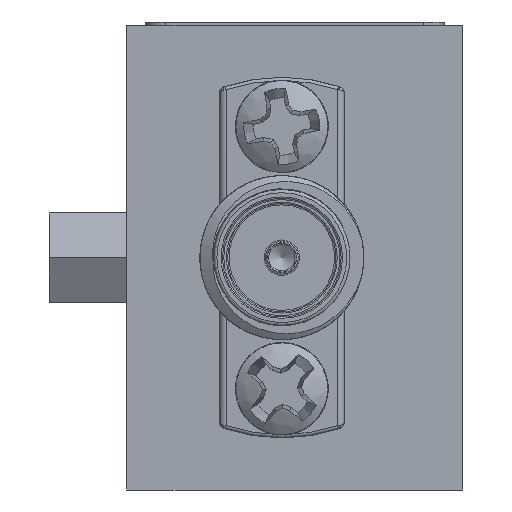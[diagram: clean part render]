
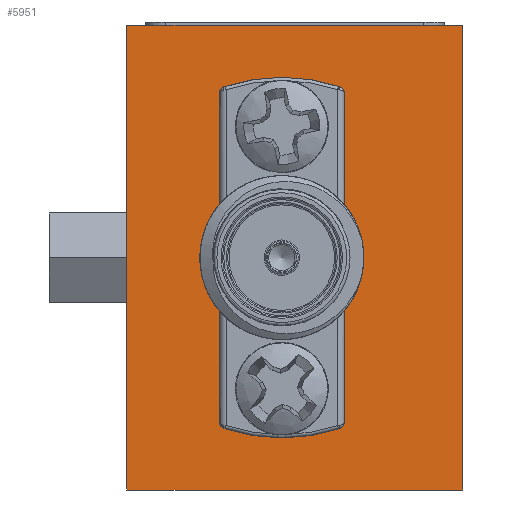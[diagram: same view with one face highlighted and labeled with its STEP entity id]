
A CAD part, left-side view. The second image highlights one B-rep face of the part: STEP entity #5951.
In plain terms, the highlighted planar face has unit normal (-1, 0, 0).
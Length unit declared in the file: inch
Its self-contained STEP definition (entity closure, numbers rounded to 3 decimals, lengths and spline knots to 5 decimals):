
#295 = FACE_BOUND ( 'NONE', #28910, .T. ) ;
#479 = CARTESIAN_POINT ( 'NONE',  ( 0., 0.51181, 0. ) ) ;
#577 = EDGE_CURVE ( 'NONE', #31227, #31227, #24682, .T. ) ;
#2184 = EDGE_CURVE ( 'NONE', #25313, #25313, #18742, .T. ) ;
#2917 = EDGE_CURVE ( 'NONE', #19898, #5177, #33841, .T. ) ;
#3261 = DIRECTION ( 'NONE',  ( 0., 0., 1. ) ) ;
#4643 = LINE ( 'NONE', #10430, #23663 ) ;
#5177 = VERTEX_POINT ( 'NONE', #37444 ) ;
#5734 = CARTESIAN_POINT ( 'NONE',  ( 0., 0.27559, -0.15433 ) ) ;
#5951 = ADVANCED_FACE ( 'NONE', ( #295, #8775, #29409 ), #15001, .F. ) ;
#6544 = DIRECTION ( 'NONE',  ( 1., 0., 0. ) ) ;
#6672 = CARTESIAN_POINT ( 'NONE',  ( 0., 0.51181, 0. ) ) ;
#8775 = FACE_BOUND ( 'NONE', #22389, .T. ) ;
#8933 = EDGE_CURVE ( 'NONE', #15052, #31835, #23901, .T. ) ;
#9057 = DIRECTION ( 'NONE',  ( -1., 0., 0. ) ) ;
#9277 = VECTOR ( 'NONE', #31859, 39.37008 ) ;
#9490 = ORIENTED_EDGE ( 'NONE', *, *, #2184, .F. ) ;
#10430 = CARTESIAN_POINT ( 'NONE',  ( 0., 0.51181, -0.70866 ) ) ;
#11311 = CARTESIAN_POINT ( 'NONE',  ( 0., 0.27559, -0.11133 ) ) ;
#13171 = AXIS2_PLACEMENT_3D ( 'NONE', #5734, #9057, #3261 ) ;
#15001 = PLANE ( 'NONE',  #26949 ) ;
#15052 = VERTEX_POINT ( 'NONE', #32381 ) ;
#15151 = DIRECTION ( 'NONE',  ( -1., 0., 0. ) ) ;
#17367 = CARTESIAN_POINT ( 'NONE',  ( 0., 0.51181, -0.70866 ) ) ;
#17427 = ORIENTED_EDGE ( 'NONE', *, *, #17445, .T. ) ;
#17445 = EDGE_CURVE ( 'NONE', #19898, #15052, #4643, .T. ) ;
#17654 = DIRECTION ( 'NONE',  ( 0., 0., -1. ) ) ;
#17786 = LINE ( 'NONE', #6672, #9277 ) ;
#18007 = DIRECTION ( 'NONE',  ( 0., 0., 1. ) ) ;
#18733 = DIRECTION ( 'NONE',  ( 0., 0., 1. ) ) ;
#18742 = CIRCLE ( 'NONE', #25995, 0.043 ) ;
#19399 = DIRECTION ( 'NONE',  ( 0., 0., 1. ) ) ;
#19455 = ORIENTED_EDGE ( 'NONE', *, *, #30614, .F. ) ;
#19898 = VERTEX_POINT ( 'NONE', #17367 ) ;
#20020 = CARTESIAN_POINT ( 'NONE',  ( 0., 0.27559, -0.51133 ) ) ;
#22389 = EDGE_LOOP ( 'NONE', ( #27811 ) ) ;
#23663 = VECTOR ( 'NONE', #28045, 39.37008 ) ;
#23693 = CARTESIAN_POINT ( 'NONE',  ( 0., 0.27559, -0.55433 ) ) ;
#23901 = LINE ( 'NONE', #28840, #28128 ) ;
#24170 = VECTOR ( 'NONE', #19399, 39.37008 ) ;
#24682 = CIRCLE ( 'NONE', #13171, 0.043 ) ;
#25313 = VERTEX_POINT ( 'NONE', #20020 ) ;
#25995 = AXIS2_PLACEMENT_3D ( 'NONE', #23693, #15151, #18733 ) ;
#26949 = AXIS2_PLACEMENT_3D ( 'NONE', #479, #6544, #17654 ) ;
#27115 = EDGE_LOOP ( 'NONE', ( #29957, #19455, #31157, #17427 ) ) ;
#27811 = ORIENTED_EDGE ( 'NONE', *, *, #577, .F. ) ;
#28045 = DIRECTION ( 'NONE',  ( 0., -1., 0. ) ) ;
#28128 = VECTOR ( 'NONE', #18007, 39.37008 ) ;
#28840 = CARTESIAN_POINT ( 'NONE',  ( 0., 0., 0. ) ) ;
#28910 = EDGE_LOOP ( 'NONE', ( #9490 ) ) ;
#29409 = FACE_OUTER_BOUND ( 'NONE', #27115, .T. ) ;
#29957 = ORIENTED_EDGE ( 'NONE', *, *, #8933, .T. ) ;
#30614 = EDGE_CURVE ( 'NONE', #5177, #31835, #17786, .T. ) ;
#30989 = CARTESIAN_POINT ( 'NONE',  ( 0., 0.51181, 0. ) ) ;
#31157 = ORIENTED_EDGE ( 'NONE', *, *, #2917, .F. ) ;
#31227 = VERTEX_POINT ( 'NONE', #11311 ) ;
#31835 = VERTEX_POINT ( 'NONE', #37412 ) ;
#31859 = DIRECTION ( 'NONE',  ( 0., -1., 0. ) ) ;
#32381 = CARTESIAN_POINT ( 'NONE',  ( 0., 0., -0.70866 ) ) ;
#33841 = LINE ( 'NONE', #30989, #24170 ) ;
#37412 = CARTESIAN_POINT ( 'NONE',  ( 0., 0., 0. ) ) ;
#37444 = CARTESIAN_POINT ( 'NONE',  ( 0., 0.51181, 0. ) ) ;
